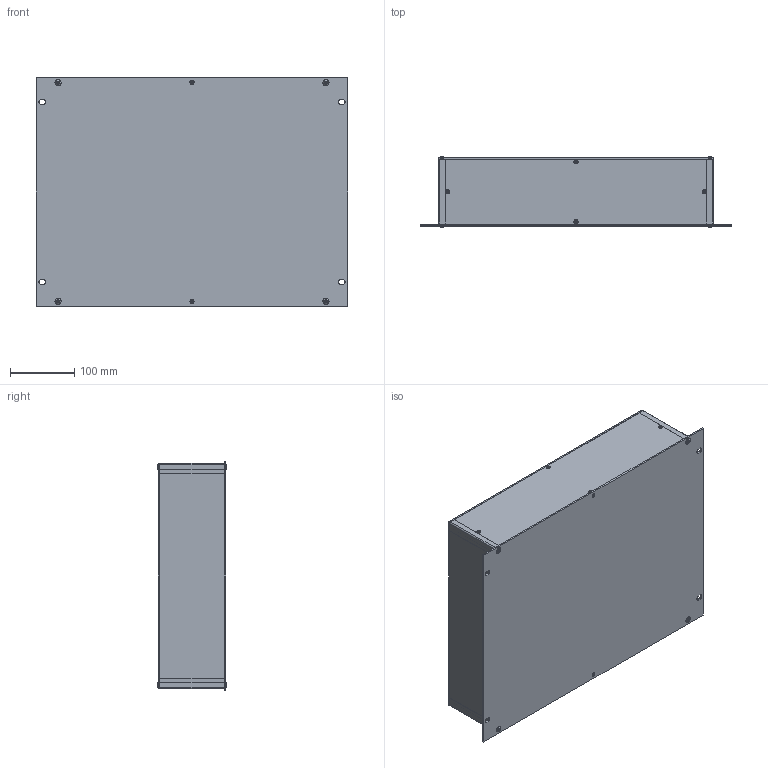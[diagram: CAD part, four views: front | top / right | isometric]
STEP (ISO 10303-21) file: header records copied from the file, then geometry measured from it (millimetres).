
FILE_DESCRIPTION(/* description */ (''),/* implementation_level */ '2;1');
FILE_NAME(/* name */ '//diskstation/Kunden/Gehäuse/Gehäuse/8HE/step/19 Zoll 8HE Rack Gehäuse Tiefe-100.step',/* time_stamp */ '2022-02-17T17:18:49+01:00',/* author */ (''),/* organization */ (''),/* preprocessor_version */ 'ST-DEVELOPER v18.1',/* originating_system */ 'Autodesk Translation Framework v10.10.0.1391',/* authorisation */ '');
FILE_SCHEMA (('AUTOMOTIVE_DESIGN { 1 0 10303 214 3 1 1 }'));
Length unit declared in the file: millimetre
Products named in the file (28): 8HE Gehäuse mit parametern; Gehäuse; Gehäuseprofil 1 unten links; Gehäuseprofil 2 oben rechts; Gehäuseprofil 1 unten rechts; Gehäuseprofil 2 oben links; Rückplatte; Deckel; Seitenteil links; Seitenteil rechts; Bodenplatte; Montageklotz Front/Deckel; Montageklotz Front/Boden; Montageklotz Rück/Deckel; Montageklotz Rück/Boden; Gewindestreifen; Frontplatte; Schrauben M5; Schraube Front; Schraube Front (1); Schraube Front (2); Schraube Front (3); Schraube Rück (1); Schraube Rück; Schraube Rück (2); Schraube Rück (3); Schrauben M3; HI_Senkschraube DIN 965 A v2 M3x5 24677.030.005(High)
Assembly tree (37 placements, depth 3):
  8HE Gehäuse mit parametern
    Gehäuse
      Gehäuseprofil 1 unten links
      Gehäuseprofil 2 oben rechts
      Gehäuseprofil 1 unten rechts
      Gehäuseprofil 2 oben links
      Rückplatte
      Deckel
      Seitenteil links
      Seitenteil rechts
      Bodenplatte
      Montageklotz Front/Deckel
      Montageklotz Front/Boden
      Montageklotz Rück/Deckel
      Montageklotz Rück/Boden
      Gewindestreifen  x2
    Frontplatte
    Schrauben M5
      Schraube Front
      Schraube Front (1)
      Schraube Front (2)
      Schraube Front (3)
      Schraube Rück (1)
      Schraube Rück
      Schraube Rück (2)
      Schraube Rück (3)
    Schrauben M3
      HI_Senkschraube DIN 965 A v2 M3x5 24677.030.005(High)  x10
Bounding box: 483 x 108.2 x 354.8 mm (x, y, z)
Volume: 1191245.7 mm3; surface area: 998609.2 mm2
Topology: 34 solids, 34 shells, 802 faces, 1920 edges, 1186 vertices
Faces by surface type: plane 346, cylinder 276, cone 164, torus 8, bspline 8
Full cylindrical faces by diameter (mm): 2.529 x30, 3 x10, 3.2 x10, 4.234 x40, 5 x8, 5.2 x4, 5.3 x8, 5.6 x10, 9.5 x8
Entity records: 15811 total; most frequent: CARTESIAN_POINT 2922, DIRECTION 2634, ORIENTED_EDGE 2334, EDGE_CURVE 1167, AXIS2_PLACEMENT_3D 978, VERTEX_POINT 726, LINE 678, VECTOR 678
